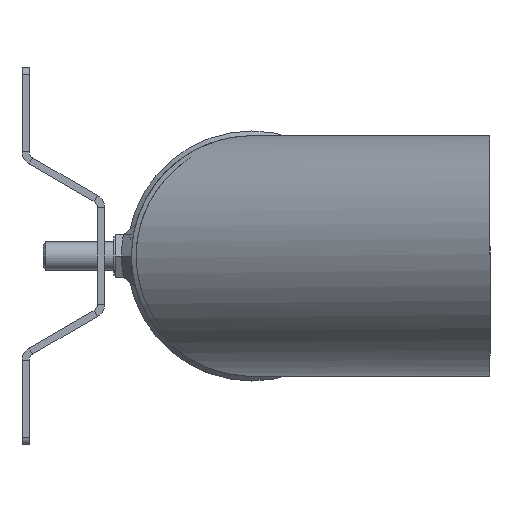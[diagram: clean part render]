
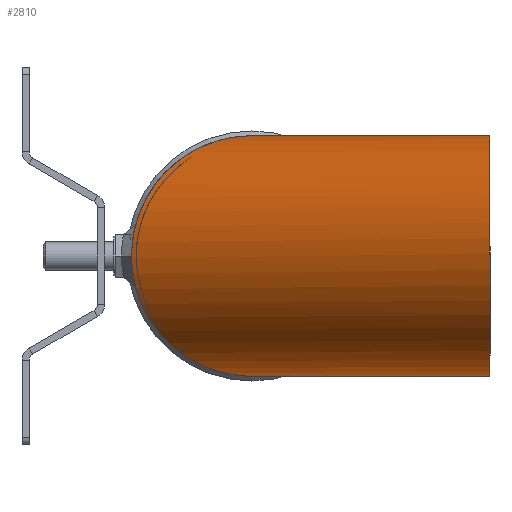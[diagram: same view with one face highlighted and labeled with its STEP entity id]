
A CAD part, left-side view. The second image highlights one B-rep face of the part: STEP entity #2810.
In plain terms, the highlighted cylindrical face has radius 51 mm (diameter 102 mm), a full revolution.
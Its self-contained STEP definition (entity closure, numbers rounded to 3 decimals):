
#238=CYLINDRICAL_SURFACE('',#3063,51.);
#309=FACE_OUTER_BOUND('',#482,.T.);
#482=EDGE_LOOP('',(#1856,#1857,#1858,#1859,#1860));
#675=LINE('',#4714,#878);
#878=VECTOR('',#3459,51.);
#1079=ELLIPSE('',#3059,58.89,51.);
#1080=ELLIPSE('',#3061,58.89,51.);
#1081=ELLIPSE('',#3062,58.89,51.);
#1125=VERTEX_POINT('',#4706);
#1126=VERTEX_POINT('',#4709);
#1127=VERTEX_POINT('',#4710);
#1394=EDGE_CURVE('',#1125,#1125,#1079,.T.);
#1395=EDGE_CURVE('',#1126,#1127,#1080,.T.);
#1396=EDGE_CURVE('',#1127,#1126,#1081,.T.);
#1397=EDGE_CURVE('',#1127,#1125,#675,.T.);
#1856=ORIENTED_EDGE('',*,*,#1395,.T.);
#1857=ORIENTED_EDGE('',*,*,#1397,.T.);
#1858=ORIENTED_EDGE('',*,*,#1394,.T.);
#1859=ORIENTED_EDGE('',*,*,#1397,.F.);
#1860=ORIENTED_EDGE('',*,*,#1396,.T.);
#2810=ADVANCED_FACE('',(#309),#238,.T.);
#3059=AXIS2_PLACEMENT_3D('',#4707,#3449,#3450);
#3061=AXIS2_PLACEMENT_3D('',#4711,#3453,#3454);
#3062=AXIS2_PLACEMENT_3D('',#4712,#3455,#3456);
#3063=AXIS2_PLACEMENT_3D('',#4713,#3457,#3458);
#3449=DIRECTION('center_axis',(0.,1.,0.));
#3450=DIRECTION('ref_axis',(1.,0.,0.));
#3453=DIRECTION('center_axis',(-0.866,-0.5,0.));
#3454=DIRECTION('ref_axis',(-0.5,0.866,0.));
#3455=DIRECTION('center_axis',(-0.866,-0.5,0.));
#3456=DIRECTION('ref_axis',(-0.5,0.866,0.));
#3457=DIRECTION('center_axis',(0.5,0.866,0.));
#3458=DIRECTION('ref_axis',(-0.866,0.5,0.));
#3459=DIRECTION('',(-0.5,-0.866,0.));
#4706=CARTESIAN_POINT('',(-2099.411,-101.403,0.26));
#4707=CARTESIAN_POINT('Origin',(-2158.301,-101.403,0.26));
#4709=CARTESIAN_POINT('',(-2098.739,-2.568,-50.694));
#4710=CARTESIAN_POINT('',(-2070.544,-51.403,0.26));
#4711=CARTESIAN_POINT('Origin',(-2099.989,-0.403,0.26));
#4712=CARTESIAN_POINT('Origin',(-2099.989,-0.403,0.26));
#4713=CARTESIAN_POINT('Origin',(-2249.989,-260.211,0.26));
#4714=CARTESIAN_POINT('',(-2205.821,-285.711,0.26));
